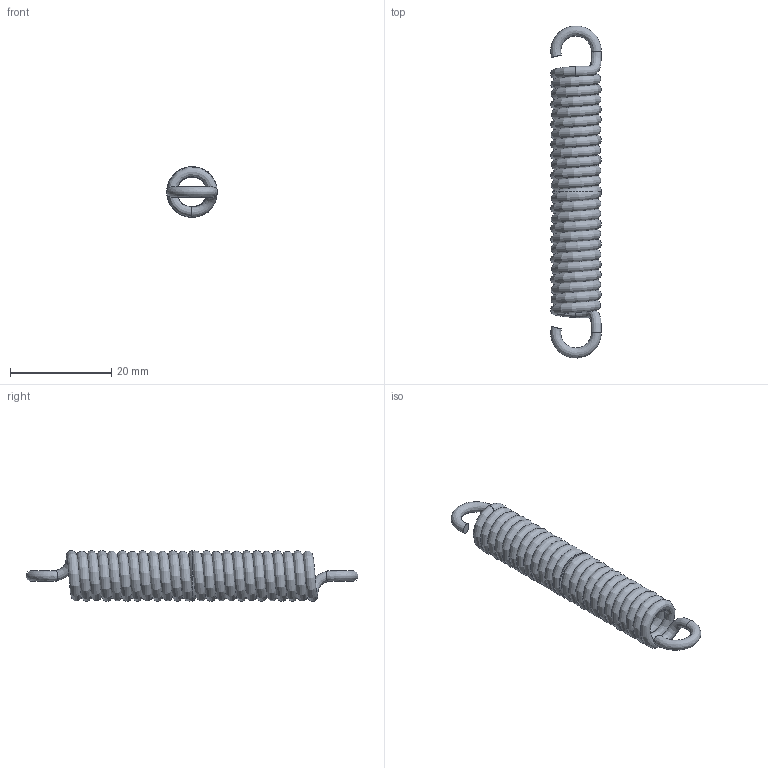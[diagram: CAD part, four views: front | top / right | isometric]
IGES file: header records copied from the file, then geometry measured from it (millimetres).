
Global section: file name: T21620; native system: Autodesk Inventor 2026; preprocessor: unknown; author: J. Iwanek; date: 20261005.101834; units: millimetre
Bounding box: 9.99 x 65.57 x 10 mm (x, y, z)
Volume: 2019.9 mm3; surface area: 4053.6 mm2
Topology: 1 solids, 1 shells, 10 faces, 32 edges, 20 vertices
Faces by surface type: bspline 10
